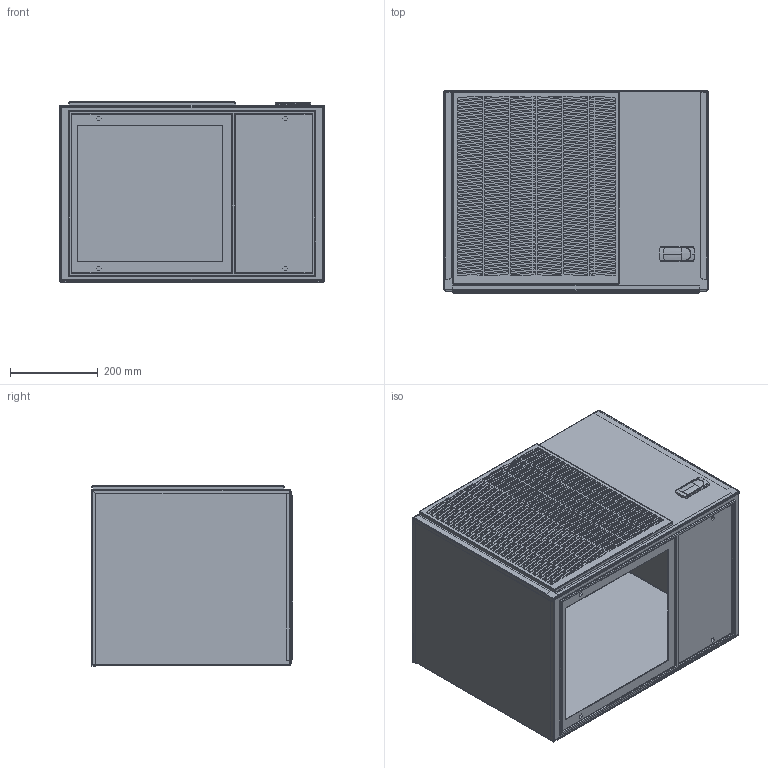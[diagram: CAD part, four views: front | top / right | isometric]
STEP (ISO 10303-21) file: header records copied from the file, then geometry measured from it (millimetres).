
FILE_DESCRIPTION(/* description */ (''),/* implementation_level */ '2;1');
FILE_NAME(/* name */ 'CCU20A231(402)RNIyX',/* time_stamp */ '2024-06-10T12:30:03+02:00',/* author */ (''),/* organization */ (''),/* preprocessor_version */ 'ST-DEVELOPER v16.5',/* originating_system */ 'Rhino 7.37',/* authorisation */ '');
FILE_SCHEMA (('AP242_MANAGED_MODEL_BASED_3D_ENGINEERING_MIM_LF { 1 0 10303 442 1 1 4 }'));
Length unit declared in the file: millimetre
Products named in the file (1): Document
Bounding box: 601.5 x 459 x 411.5 mm (x, y, z)
Volume: 1577473.6 mm3; surface area: 2954241.6 mm2
Topology: 3 solids, 4 shells, 1565 faces, 4473 edges, 2909 vertices
Faces by surface type: plane 1456, cylinder 70, bspline 39
Entity records: 50798 total; most frequent: CARTESIAN_POINT 19409, ORIENTED_EDGE 8923, EDGE_CURVE 4472, B_SPLINE_CURVE_WITH_KNOTS 4464, VERTEX_POINT 2909, EDGE_LOOP 2205, ADVANCED_FACE 1565, FACE_OUTER_BOUND 1565
